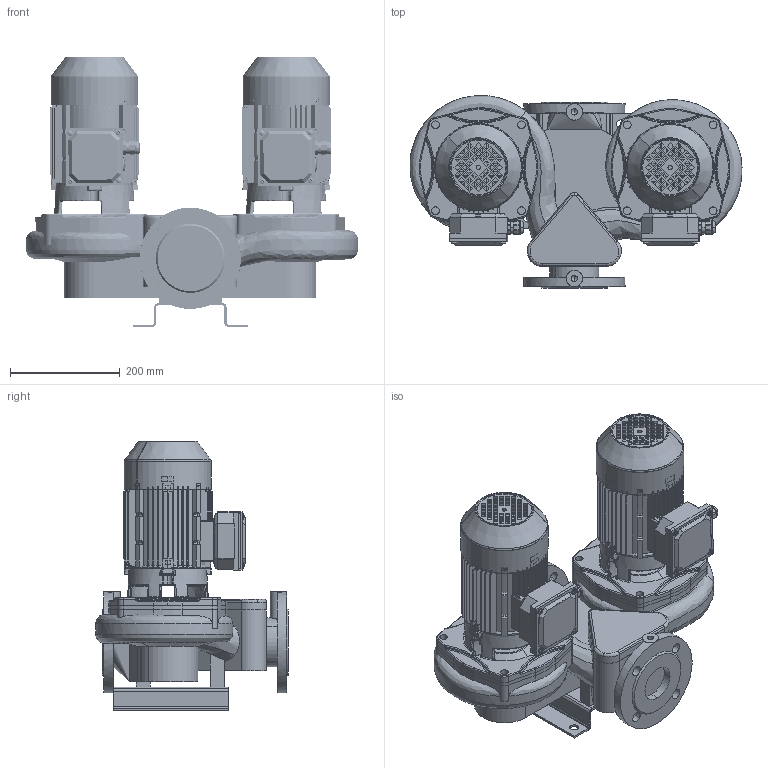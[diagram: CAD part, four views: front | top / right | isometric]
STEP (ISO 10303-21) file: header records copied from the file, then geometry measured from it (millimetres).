
FILE_DESCRIPTION(('STEP AP214'),'1');
FILE_NAME('export.stp','2018-05-30T07:46:37',(' '),(' '),'Spatial InterOp 3D',' ',' ');
FILE_SCHEMA(('AUTOMOTIVE_DESIGN { 1 0 10303 214 1 1 1 1 }'));
Length unit declared in the file: millimetre
Products named in the file (27): W_T65A4750_KP80; V_TLL65AB80A1102; V_PPT65AB; V_JALKA35973; 160022; 160003; V_MKP80-2_F19; 160141; 160137; 160138; 160139; 160140; Koura_Ale_M5; Plug_Blind_M20; Sealing_Plug_M20; DIN_7985-M5X8; DIN_7985-M5X12; 480032; 480031___; 480034; 480033___; 160133
Assembly tree (46 placements, depth 4):
  W_T65A4750_KP80
    V_TLL65AB80A1102  x2
    V_PPT65AB
    V_JALKA35973
    V_MKP80-2_F19
      160022
        160003
      160141
        160137
        160138
        160139
        160140
        Koura_Ale_M5
        Plug_Blind_M20
        Sealing_Plug_M20
        DIN_7985-M5X8
        DIN_7985-M5X12  x4
      480032
        480031___
      480034
        480033___
      160133
    V_MKP80-2_F19
      160022
        160003
      160141
        160137
        160138
        160139
        160140
        Koura_Ale_M5
        Plug_Blind_M20
        Sealing_Plug_M20
        DIN_7985-M5X8
        DIN_7985-M5X12  x4
      480032
        480031___
      480034
        480033___
      160133
Bounding box: 606.04 x 351.9 x 492.1 mm (x, y, z)
Volume: 17469739.5 mm3; surface area: 3754741.6 mm2
Topology: 36 solids, 36 shells, 5513 faces, 14390 edges, 8939 vertices
Faces by surface type: plane 2122, cylinder 1747, bspline 668, torus 566, cone 282, sphere 128
Entity records: 114712 total; most frequent: CARTESIAN_POINT 42754, ORIENTED_EDGE 14700, DIRECTION 13485, EDGE_CURVE 7350, AXIS2_PLACEMENT_3D 5111, VERTEX_POINT 4614, LINE 3263, VECTOR 3263
